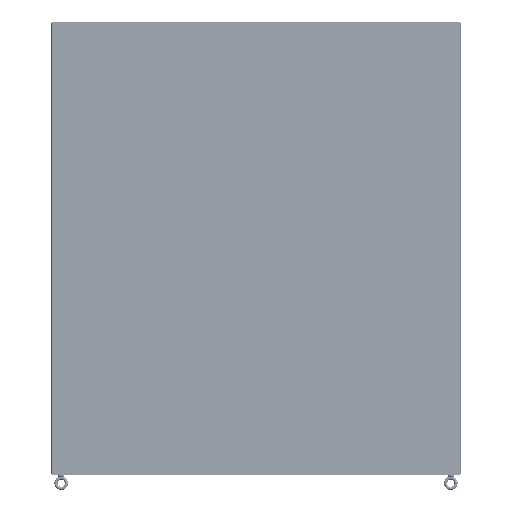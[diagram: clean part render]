
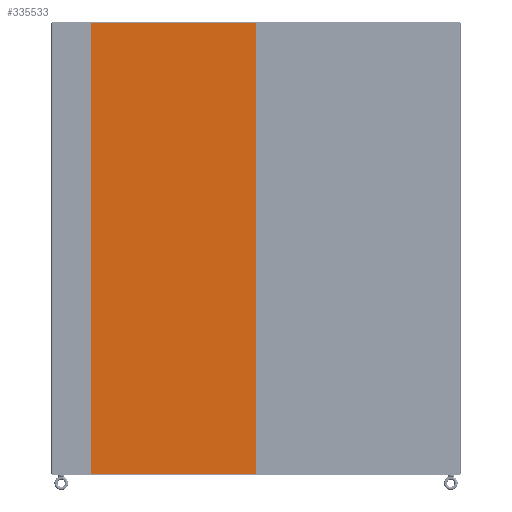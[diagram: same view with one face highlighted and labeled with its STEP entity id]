
A CAD part, left-side view. The second image highlights one B-rep face of the part: STEP entity #335533.
In plain terms, the highlighted planar face has unit normal (-1, 0, 0) as drawn and (0, 0, -1) by its records, which use the part's own axes.
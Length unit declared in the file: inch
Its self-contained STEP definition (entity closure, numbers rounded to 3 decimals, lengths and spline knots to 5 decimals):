
#335095=CARTESIAN_POINT('',(-15.6475,42.856,-0.104));
#335096=DIRECTION('',(0.,0.,-1.));
#335097=DIRECTION('',(-1.,0.,0.));
#335098=AXIS2_PLACEMENT_3D('',#335095,#335096,#335097);
#335103=DIRECTION('',(0.,-1.,0.));
#335104=VECTOR('',#335103,85.712);
#335105=CARTESIAN_POINT('',(-15.6875,42.856,-0.104));
#335106=LINE('',#335105,#335104);
#335110=CARTESIAN_POINT('',(-15.6475,-42.856,-0.104));
#335111=DIRECTION('',(0.,0.,-1.));
#335112=DIRECTION('',(0.,-1.,0.));
#335113=AXIS2_PLACEMENT_3D('',#335110,#335111,#335112);
#335118=DIRECTION('',(1.,0.,0.));
#335119=VECTOR('',#335118,31.295);
#335120=CARTESIAN_POINT('',(-15.6475,-42.896,-0.104));
#335121=LINE('',#335120,#335119);
#335125=CARTESIAN_POINT('',(15.6475,-42.856,-0.104));
#335126=DIRECTION('',(0.,0.,-1.));
#335127=DIRECTION('',(1.,0.,0.));
#335128=AXIS2_PLACEMENT_3D('',#335125,#335126,#335127);
#335133=DIRECTION('',(0.,1.,0.));
#335134=VECTOR('',#335133,85.712);
#335135=CARTESIAN_POINT('',(15.6875,-42.856,-0.104));
#335136=LINE('',#335135,#335134);
#335140=CARTESIAN_POINT('',(15.6475,42.856,-0.104));
#335141=DIRECTION('',(0.,0.,-1.));
#335142=DIRECTION('',(0.,1.,0.));
#335143=AXIS2_PLACEMENT_3D('',#335140,#335141,#335142);
#335148=DIRECTION('',(-1.,0.,0.));
#335149=VECTOR('',#335148,31.295);
#335150=CARTESIAN_POINT('',(15.6475,42.896,-0.104));
#335151=LINE('',#335150,#335149);
#335249=CARTESIAN_POINT('',(-15.6875,42.856,-0.104));
#335250=VERTEX_POINT('',#335249);
#335251=CARTESIAN_POINT('',(-15.6475,42.896,-0.104));
#335252=VERTEX_POINT('',#335251);
#335257=CARTESIAN_POINT('',(-15.6475,-42.896,-0.104));
#335258=VERTEX_POINT('',#335257);
#335259=CARTESIAN_POINT('',(-15.6875,-42.856,-0.104));
#335260=VERTEX_POINT('',#335259);
#335265=CARTESIAN_POINT('',(15.6475,42.896,-0.104));
#335266=VERTEX_POINT('',#335265);
#335267=CARTESIAN_POINT('',(15.6475,-42.896,-0.104));
#335268=VERTEX_POINT('',#335267);
#335271=CARTESIAN_POINT('',(15.6875,42.856,-0.104));
#335272=VERTEX_POINT('',#335271);
#335275=CARTESIAN_POINT('',(15.6875,-42.856,-0.104));
#335276=VERTEX_POINT('',#335275);
#335518=CARTESIAN_POINT('',(0.,0.,-0.104));
#335519=DIRECTION('',(0.,0.,1.));
#335520=DIRECTION('',(1.,0.,0.));
#335521=AXIS2_PLACEMENT_3D('',#335518,#335519,#335520);
#335522=PLANE('',#335521);
#335523=ORIENTED_EDGE('',*,*,#335358,.F.);
#335524=ORIENTED_EDGE('',*,*,#335381,.T.);
#335525=ORIENTED_EDGE('',*,*,#335401,.F.);
#335526=ORIENTED_EDGE('',*,*,#335423,.T.);
#335527=ORIENTED_EDGE('',*,*,#335443,.F.);
#335528=ORIENTED_EDGE('',*,*,#335463,.T.);
#335529=ORIENTED_EDGE('',*,*,#335485,.F.);
#335530=ORIENTED_EDGE('',*,*,#335504,.T.);
#335531=EDGE_LOOP('',(#335523,#335524,#335525,#335526,#335527,#335528,#335529,
#335530));
#335532=FACE_OUTER_BOUND('',#335531,.F.);
#335099=CIRCLE('',#335098,0.04);
#335114=CIRCLE('',#335113,0.04);
#335129=CIRCLE('',#335128,0.04);
#335144=CIRCLE('',#335143,0.04);
#335358=EDGE_CURVE('',#335250,#335252,#335099,.T.);
#335381=EDGE_CURVE('',#335250,#335260,#335106,.T.);
#335401=EDGE_CURVE('',#335258,#335260,#335114,.T.);
#335423=EDGE_CURVE('',#335258,#335268,#335121,.T.);
#335443=EDGE_CURVE('',#335276,#335268,#335129,.T.);
#335463=EDGE_CURVE('',#335276,#335272,#335136,.T.);
#335485=EDGE_CURVE('',#335266,#335272,#335144,.T.);
#335504=EDGE_CURVE('',#335266,#335252,#335151,.T.);
#335533=ADVANCED_FACE('',(#335532),#335522,.F.);
